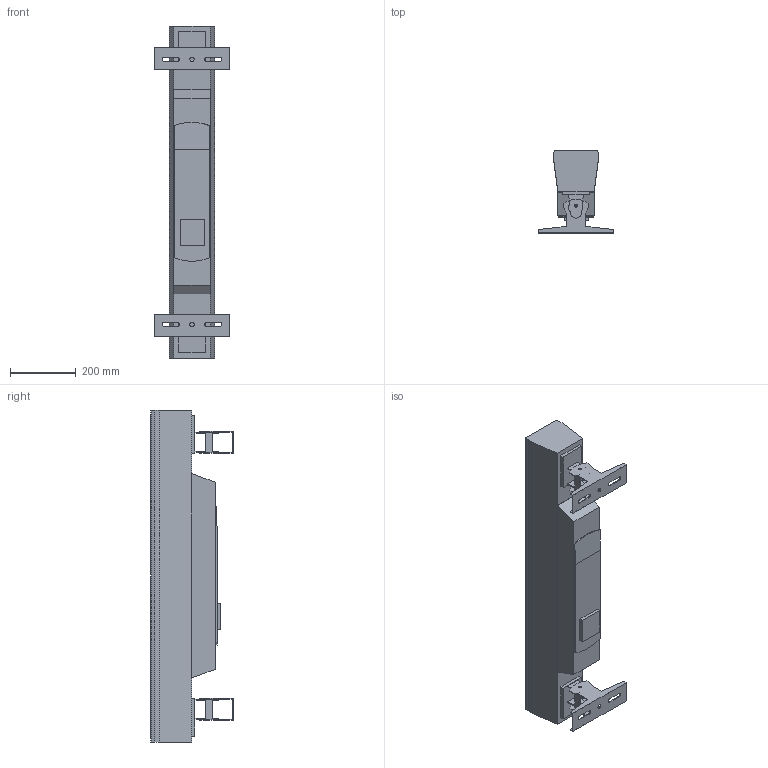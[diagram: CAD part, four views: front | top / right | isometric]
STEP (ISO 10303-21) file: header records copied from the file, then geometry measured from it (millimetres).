
FILE_DESCRIPTION(/* description */ (''),/* implementation_level */ '2;1');
FILE_NAME(/* name */ 'D:/dgooch/Documents/CADENG/PRO/Colorado Solo Batten/0/Colorado Solo Batten_0.step',/* time_stamp */ '2019-03-25T14:13:42-04:00',/* author */ ('dgooch'),/* organization */ (''),/* preprocessor_version */ 'ST-DEVELOPER v17.2',/* originating_system */ 'Autodesk Translation Framework v7.6.0.251',/* authorisation */ '');
FILE_SCHEMA (('AUTOMOTIVE_DESIGN { 1 0 10303 214 3 1 1 }'));
Length unit declared in the file: millimetre
Products named in the file (4): Colorado Solo Batten; Bracket ; Bracket (Mirror); Main
Assembly tree (3 placements, depth 2):
  Colorado Solo Batten
    Bracket 
    Bracket (Mirror)
    Main
Bounding box: 230 x 252.84 x 1013.1 mm (x, y, z)
Volume: 21087738.4 mm3; surface area: 818094.3 mm2
Topology: 3 solids, 3 shells, 147 faces, 433 edges, 298 vertices
Faces by surface type: plane 105, cylinder 40, bspline 2
Full cylindrical faces by diameter (mm): 6.8 x4, 8.5 x4, 13 x2
Entity records: 5182 total; most frequent: CARTESIAN_POINT 975, ORIENTED_EDGE 866, DIRECTION 827, EDGE_CURVE 433, LINE 335, VECTOR 335, VERTEX_POINT 298, AXIS2_PLACEMENT_3D 246
